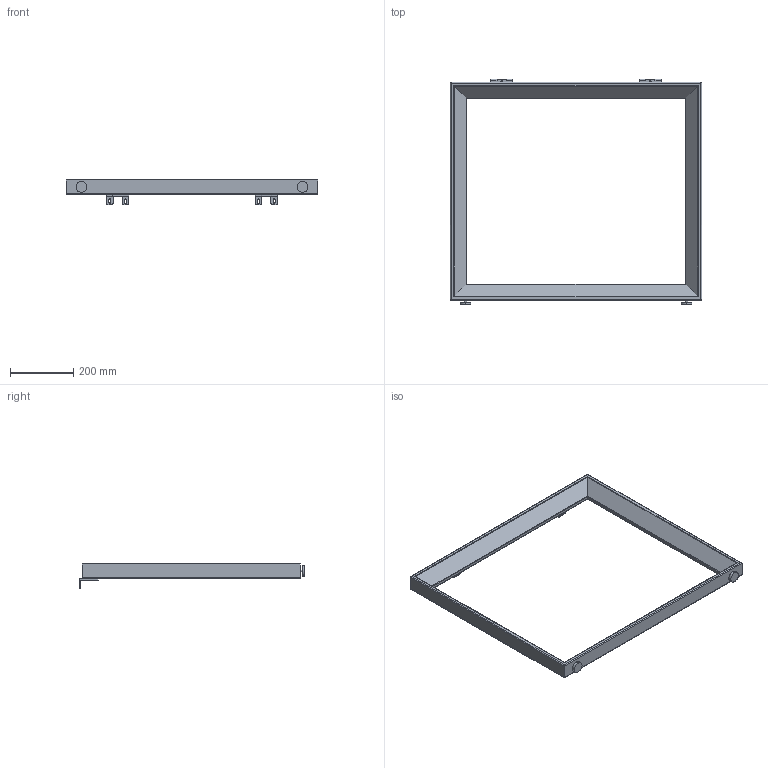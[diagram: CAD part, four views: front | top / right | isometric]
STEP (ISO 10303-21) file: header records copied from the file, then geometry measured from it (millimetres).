
FILE_DESCRIPTION (( 'STEP AP203' ), '1' );
FILE_NAME ('MILADESIGN podnož Mobi-Q MQ5508-Z_252558 a 259332 a 259333 a 259334_3D.STEP', '2021-11-16T13:36:12', ( '' ), ( '' ), 'SwSTEP 2.0', 'SolidWorks 2019', '' );
FILE_SCHEMA (( 'CONFIG_CONTROL_DESIGN' ));
Length unit declared in the file: millimetre
Products named in the file (1): MILADESIGN podnož Mobi-Q MQ5508-Z_252558 a 259332 a 259333 a 259334_3D
Bounding box: 796 x 715 x 82 mm (x, y, z)
Volume: 5028014 mm3; surface area: 511715.6 mm2
Topology: 3 solids, 3 shells, 158 faces, 388 edges, 240 vertices
Faces by surface type: plane 86, cylinder 72
Entity records: 4697 total; most frequent: CARTESIAN_POINT 847, DIRECTION 790, ORIENTED_EDGE 776, EDGE_CURVE 388, VECTOR 264, LINE 264, AXIS2_PLACEMENT_3D 263, VERTEX_POINT 240
